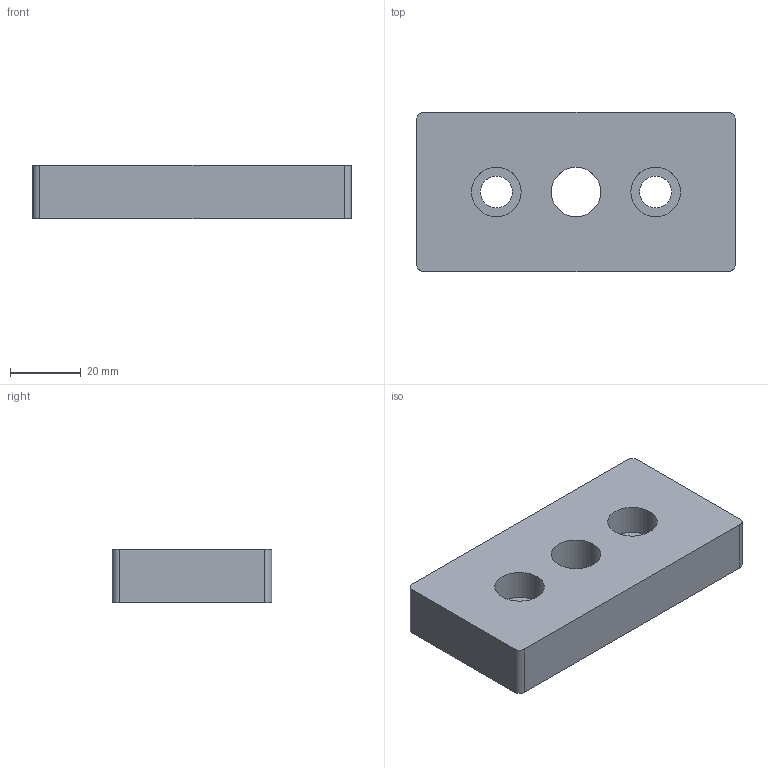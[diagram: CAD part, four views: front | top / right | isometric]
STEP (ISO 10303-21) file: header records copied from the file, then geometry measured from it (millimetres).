
FILE_DESCRIPTION (( 'STEP AP214' ), '1' );
FILE_NAME ('SL02001.step', '2024-12-03T16:30:47', ( '' ), ( '' ), 'SwSTEP 2.0', 'SolidWorks 2023', '' );
FILE_SCHEMA (( 'AUTOMOTIVE_DESIGN' ));
Length unit declared in the file: millimetre
Products named in the file (1): SL02001
Bounding box: 90 x 45 x 15 mm (x, y, z)
Volume: 54927.4 mm3; surface area: 13307.4 mm2
Topology: 1 solids, 1 shells, 17 faces, 40 edges, 27 vertices
Faces by surface type: cylinder 9, plane 8
Full cylindrical faces by diameter (mm): 9 x2, 14 x3
Entity records: 501 total; most frequent: DIRECTION 88, CARTESIAN_POINT 78, ORIENTED_EDGE 68, AXIS2_PLACEMENT_3D 36, EDGE_CURVE 34, EDGE_LOOP 30, VERTEX_POINT 26, FACE_OUTER_BOUND 22
